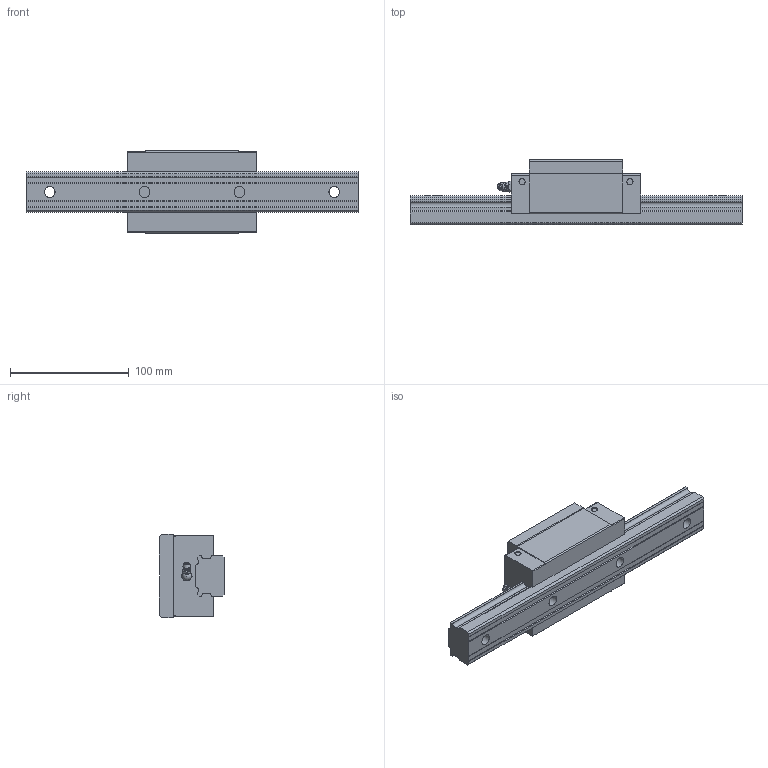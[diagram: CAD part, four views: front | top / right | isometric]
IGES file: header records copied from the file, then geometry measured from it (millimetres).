
Start section: Data from Parasolid IGES Translator 26.0.171, Copyright(c) 2006 Siemens PLM Software. All Rights Reserved.
Global section: file name: SVR35RH1SS-280L_G20_0_B-M6F_85-25_0_0_01.igs; native system: By Siemens PLM Incorporated; preprocessor: XPlus GENERIC/IGES 26.0.171; author: Noname; organization: Noname; date: 20240517.072829; units: millimetre
Bounding box: 280 x 55 x 70 mm (x, y, z)
Surface area: 73268.2 mm2 (no closed solid volume)
Topology: 0 solids, 0 shells, 185 faces, 1016 edges, 984 vertices
Faces by surface type: extrusion 100, revolution 85
